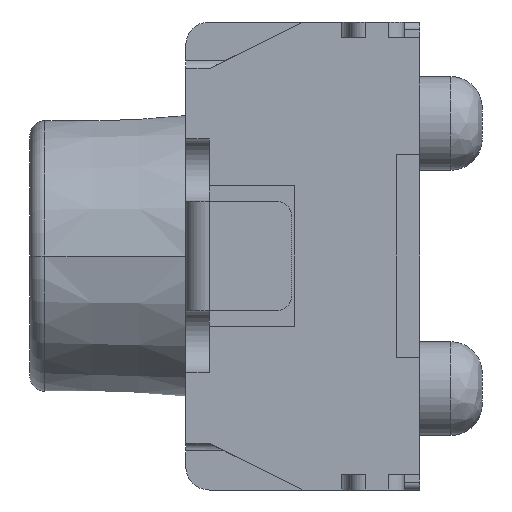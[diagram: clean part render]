
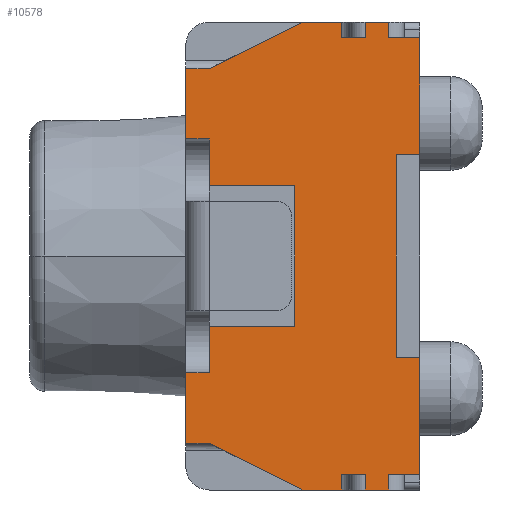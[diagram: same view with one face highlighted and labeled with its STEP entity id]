
A CAD part, left-side view. The second image highlights one B-rep face of the part: STEP entity #10578.
In plain terms, the highlighted planar face has unit normal (-1, 0, 0).
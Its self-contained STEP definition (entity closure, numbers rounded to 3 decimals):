
#51=DIRECTION('',(0.,0.,1.));
#52=VECTOR('',#51,0.75);
#53=CARTESIAN_POINT('',(-2.,0.,-1.4));
#54=LINE('',#53,#52);
#67=DIRECTION('',(0.,0.,1.));
#68=VECTOR('',#67,0.75);
#69=CARTESIAN_POINT('',(-2.,0.,0.65));
#70=LINE('',#69,#68);
#2001=DIRECTION('',(0.,0.,1.));
#2002=VECTOR('',#2001,1.3);
#2003=CARTESIAN_POINT('',(-2.,0.15,-0.65));
#2004=LINE('',#2003,#2002);
#2005=DIRECTION('',(0.,1.,0.));
#2006=VECTOR('',#2005,0.15);
#2007=CARTESIAN_POINT('',(-2.,0.,-0.65));
#2008=LINE('',#2007,#2006);
#2009=DIRECTION('',(0.,0.,-1.));
#2010=VECTOR('',#2009,0.1);
#2011=CARTESIAN_POINT('',(-2.,0.2,-1.4));
#2012=LINE('',#2011,#2010);
#2013=DIRECTION('',(0.,0.,-1.));
#2014=VECTOR('',#2013,0.1);
#2015=CARTESIAN_POINT('',(-2.,0.35,-1.4));
#2016=LINE('',#2015,#2014);
#2017=DIRECTION('',(0.,0.,1.));
#2018=VECTOR('',#2017,0.1);
#2019=CARTESIAN_POINT('',(-2.,0.5,-1.5));
#2020=LINE('',#2019,#2018);
#2021=DIRECTION('',(0.,1.,0.));
#2022=VECTOR('',#2021,0.25);
#2023=CARTESIAN_POINT('',(-2.,0.5,-1.5));
#2024=LINE('',#2023,#2022);
#2025=DIRECTION('',(0.,-0.894,-0.447));
#2026=VECTOR('',#2025,0.671);
#2027=CARTESIAN_POINT('',(-2.,1.35,-1.2));
#2028=LINE('',#2027,#2026);
#2029=DIRECTION('',(0.,-1.,0.));
#2030=VECTOR('',#2029,0.15);
#2031=CARTESIAN_POINT('',(-2.,1.5,-1.2));
#2032=LINE('',#2031,#2030);
#2033=DIRECTION('',(0.,-1.,0.));
#2034=VECTOR('',#2033,0.15);
#2035=CARTESIAN_POINT('',(-2.,1.5,-0.75));
#2036=LINE('',#2035,#2034);
#2037=DIRECTION('',(0.,0.,-1.));
#2038=VECTOR('',#2037,0.3);
#2039=CARTESIAN_POINT('',(-2.,1.35,-0.45));
#2040=LINE('',#2039,#2038);
#2041=DIRECTION('',(0.,-1.,0.));
#2042=VECTOR('',#2041,0.55);
#2043=CARTESIAN_POINT('',(-2.,1.35,-0.45));
#2044=LINE('',#2043,#2042);
#2045=DIRECTION('',(0.,0.,-1.));
#2046=VECTOR('',#2045,0.9);
#2047=CARTESIAN_POINT('',(-2.,0.8,0.45));
#2048=LINE('',#2047,#2046);
#2049=DIRECTION('',(0.,-1.,0.));
#2050=VECTOR('',#2049,0.55);
#2051=CARTESIAN_POINT('',(-2.,1.35,0.45));
#2052=LINE('',#2051,#2050);
#2053=DIRECTION('',(0.,0.,-1.));
#2054=VECTOR('',#2053,0.3);
#2055=CARTESIAN_POINT('',(-2.,1.35,0.75));
#2056=LINE('',#2055,#2054);
#2057=DIRECTION('',(0.,-1.,0.));
#2058=VECTOR('',#2057,0.15);
#2059=CARTESIAN_POINT('',(-2.,1.5,0.75));
#2060=LINE('',#2059,#2058);
#2061=DIRECTION('',(0.,-1.,0.));
#2062=VECTOR('',#2061,0.15);
#2063=CARTESIAN_POINT('',(-2.,1.5,1.2));
#2064=LINE('',#2063,#2062);
#2065=DIRECTION('',(0.,0.894,-0.447));
#2066=VECTOR('',#2065,0.671);
#2067=CARTESIAN_POINT('',(-2.,0.75,1.5));
#2068=LINE('',#2067,#2066);
#2069=DIRECTION('',(0.,0.,-1.));
#2070=VECTOR('',#2069,0.1);
#2071=CARTESIAN_POINT('',(-2.,0.5,1.5));
#2072=LINE('',#2071,#2070);
#2073=DIRECTION('',(0.,0.,-1.));
#2074=VECTOR('',#2073,0.1);
#2075=CARTESIAN_POINT('',(-2.,0.35,1.5));
#2076=LINE('',#2075,#2074);
#2077=DIRECTION('',(0.,0.,-1.));
#2078=VECTOR('',#2077,0.1);
#2079=CARTESIAN_POINT('',(-2.,0.2,1.5));
#2080=LINE('',#2079,#2078);
#2081=DIRECTION('',(0.,1.,0.));
#2082=VECTOR('',#2081,0.15);
#2083=CARTESIAN_POINT('',(-2.,0.,0.65));
#2084=LINE('',#2083,#2082);
#2125=DIRECTION('',(0.,-1.,0.));
#2126=VECTOR('',#2125,0.2);
#2127=CARTESIAN_POINT('',(-2.,0.2,-1.4));
#2128=LINE('',#2127,#2126);
#2153=DIRECTION('',(0.,-1.,0.));
#2154=VECTOR('',#2153,0.15);
#2155=CARTESIAN_POINT('',(-2.,0.5,-1.4));
#2156=LINE('',#2155,#2154);
#2221=DIRECTION('',(0.,-1.,0.));
#2222=VECTOR('',#2221,0.15);
#2223=CARTESIAN_POINT('',(-2.,0.35,-1.5));
#2224=LINE('',#2223,#2222);
#2322=DIRECTION('',(0.,0.,1.));
#2323=VECTOR('',#2322,0.45);
#2324=CARTESIAN_POINT('',(-2.,1.5,0.75));
#2325=LINE('',#2324,#2323);
#2348=DIRECTION('',(0.,0.,1.));
#2349=VECTOR('',#2348,0.45);
#2350=CARTESIAN_POINT('',(-2.,1.5,-1.2));
#2351=LINE('',#2350,#2349);
#2507=DIRECTION('',(0.,1.,0.));
#2508=VECTOR('',#2507,0.2);
#2509=CARTESIAN_POINT('',(-2.,0.,1.4));
#2510=LINE('',#2509,#2508);
#2544=DIRECTION('',(0.,1.,0.));
#2545=VECTOR('',#2544,0.15);
#2546=CARTESIAN_POINT('',(-2.,0.35,1.4));
#2547=LINE('',#2546,#2545);
#2659=DIRECTION('',(0.,-1.,0.));
#2660=VECTOR('',#2659,0.15);
#2661=CARTESIAN_POINT('',(-2.,0.35,1.5));
#2662=LINE('',#2661,#2660);
#2739=DIRECTION('',(0.,1.,0.));
#2740=VECTOR('',#2739,0.25);
#2741=CARTESIAN_POINT('',(-2.,0.5,1.5));
#2742=LINE('',#2741,#2740);
#7073=CARTESIAN_POINT('',(-2.,0.,1.4));
#7075=VERTEX_POINT('',#7073);
#7081=CARTESIAN_POINT('',(-2.,0.5,1.5));
#7082=CARTESIAN_POINT('',(-2.,0.5,1.4));
#7083=VERTEX_POINT('',#7081);
#7084=VERTEX_POINT('',#7082);
#7149=CARTESIAN_POINT('',(-2.,0.2,1.5));
#7150=CARTESIAN_POINT('',(-2.,0.2,1.4));
#7151=VERTEX_POINT('',#7149);
#7152=VERTEX_POINT('',#7150);
#7161=CARTESIAN_POINT('',(-2.,0.35,1.5));
#7162=VERTEX_POINT('',#7161);
#7163=CARTESIAN_POINT('',(-2.,0.35,1.4));
#7164=VERTEX_POINT('',#7163);
#7269=CARTESIAN_POINT('',(-2.,0.8,0.45));
#7270=VERTEX_POINT('',#7269);
#7271=CARTESIAN_POINT('',(-2.,0.8,-0.45));
#7272=VERTEX_POINT('',#7271);
#7285=CARTESIAN_POINT('',(-2.,1.35,0.75));
#7286=VERTEX_POINT('',#7285);
#7291=CARTESIAN_POINT('',(-2.,1.35,-0.75));
#7292=VERTEX_POINT('',#7291);
#7317=CARTESIAN_POINT('',(-2.,1.5,0.75));
#7318=VERTEX_POINT('',#7317);
#7319=CARTESIAN_POINT('',(-2.,1.5,-0.75));
#7320=VERTEX_POINT('',#7319);
#7321=CARTESIAN_POINT('',(-2.,1.35,0.45));
#7322=VERTEX_POINT('',#7321);
#7323=CARTESIAN_POINT('',(-2.,1.35,-0.45));
#7324=VERTEX_POINT('',#7323);
#7335=CARTESIAN_POINT('',(-2.,1.5,1.2));
#7336=VERTEX_POINT('',#7335);
#7341=CARTESIAN_POINT('',(-2.,0.75,1.5));
#7342=CARTESIAN_POINT('',(-2.,1.35,1.2));
#7343=VERTEX_POINT('',#7341);
#7344=VERTEX_POINT('',#7342);
#7374=CARTESIAN_POINT('',(-2.,0.5,-1.4));
#7376=VERTEX_POINT('',#7374);
#7389=CARTESIAN_POINT('',(-2.,0.2,-1.4));
#7391=VERTEX_POINT('',#7389);
#7394=CARTESIAN_POINT('',(-2.,0.35,-1.4));
#7396=VERTEX_POINT('',#7394);
#7409=CARTESIAN_POINT('',(-2.,0.,-1.4));
#7410=VERTEX_POINT('',#7409);
#7413=CARTESIAN_POINT('',(-2.,0.5,-1.5));
#7414=VERTEX_POINT('',#7413);
#7446=CARTESIAN_POINT('',(-2.,0.2,-1.5));
#7448=VERTEX_POINT('',#7446);
#7449=CARTESIAN_POINT('',(-2.,0.35,-1.5));
#7451=VERTEX_POINT('',#7449);
#7483=CARTESIAN_POINT('',(-2.,1.5,-1.2));
#7484=VERTEX_POINT('',#7483);
#7495=CARTESIAN_POINT('',(-2.,1.35,-1.2));
#7496=CARTESIAN_POINT('',(-2.,0.75,-1.5));
#7497=VERTEX_POINT('',#7495);
#7498=VERTEX_POINT('',#7496);
#7551=CARTESIAN_POINT('',(-2.,0.15,-0.65));
#7552=CARTESIAN_POINT('',(-2.,0.15,0.65));
#7553=VERTEX_POINT('',#7551);
#7554=VERTEX_POINT('',#7552);
#7555=CARTESIAN_POINT('',(-2.,0.,-0.65));
#7556=VERTEX_POINT('',#7555);
#7557=CARTESIAN_POINT('',(-2.,0.,0.65));
#7558=VERTEX_POINT('',#7557);
#10510=CARTESIAN_POINT('',(-2.,0.,-1.5));
#10511=DIRECTION('',(-1.,0.,0.));
#10512=DIRECTION('',(0.,0.,1.));
#10513=AXIS2_PLACEMENT_3D('',#10510,#10511,#10512);
#10514=PLANE('',#10513);
#10515=ORIENTED_EDGE('',*,*,#10484,.F.);
#10517=ORIENTED_EDGE('',*,*,#10516,.F.);
#10518=ORIENTED_EDGE('',*,*,#9404,.F.);
#10520=ORIENTED_EDGE('',*,*,#10519,.F.);
#10522=ORIENTED_EDGE('',*,*,#10521,.T.);
#10524=ORIENTED_EDGE('',*,*,#10523,.F.);
#10526=ORIENTED_EDGE('',*,*,#10525,.F.);
#10528=ORIENTED_EDGE('',*,*,#10527,.F.);
#10530=ORIENTED_EDGE('',*,*,#10529,.F.);
#10532=ORIENTED_EDGE('',*,*,#10531,.T.);
#10534=ORIENTED_EDGE('',*,*,#10533,.F.);
#10536=ORIENTED_EDGE('',*,*,#10535,.F.);
#10538=ORIENTED_EDGE('',*,*,#10537,.T.);
#10540=ORIENTED_EDGE('',*,*,#10539,.T.);
#10542=ORIENTED_EDGE('',*,*,#10541,.F.);
#10544=ORIENTED_EDGE('',*,*,#10543,.T.);
#10546=ORIENTED_EDGE('',*,*,#10545,.F.);
#10548=ORIENTED_EDGE('',*,*,#10547,.F.);
#10550=ORIENTED_EDGE('',*,*,#10549,.F.);
#10552=ORIENTED_EDGE('',*,*,#10551,.F.);
#10554=ORIENTED_EDGE('',*,*,#10553,.T.);
#10556=ORIENTED_EDGE('',*,*,#10555,.T.);
#10558=ORIENTED_EDGE('',*,*,#10557,.F.);
#10560=ORIENTED_EDGE('',*,*,#10559,.F.);
#10562=ORIENTED_EDGE('',*,*,#10561,.T.);
#10564=ORIENTED_EDGE('',*,*,#10563,.F.);
#10566=ORIENTED_EDGE('',*,*,#10565,.F.);
#10568=ORIENTED_EDGE('',*,*,#10567,.T.);
#10570=ORIENTED_EDGE('',*,*,#10569,.T.);
#10572=ORIENTED_EDGE('',*,*,#10571,.F.);
#10573=ORIENTED_EDGE('',*,*,#9412,.F.);
#10575=ORIENTED_EDGE('',*,*,#10574,.T.);
#10576=EDGE_LOOP('',(#10515,#10517,#10518,#10520,#10522,#10524,#10526,#10528,
#10530,#10532,#10534,#10536,#10538,#10540,#10542,#10544,#10546,#10548,#10550,
#10552,#10554,#10556,#10558,#10560,#10562,#10564,#10566,#10568,#10570,#10572,
#10573,#10575));
#10577=FACE_OUTER_BOUND('',#10576,.F.);
#9404=EDGE_CURVE('',#7410,#7556,#54,.T.);
#9412=EDGE_CURVE('',#7558,#7075,#70,.T.);
#10484=EDGE_CURVE('',#7553,#7554,#2004,.T.);
#10516=EDGE_CURVE('',#7556,#7553,#2008,.T.);
#10519=EDGE_CURVE('',#7391,#7410,#2128,.T.);
#10521=EDGE_CURVE('',#7391,#7448,#2012,.T.);
#10523=EDGE_CURVE('',#7451,#7448,#2224,.T.);
#10525=EDGE_CURVE('',#7396,#7451,#2016,.T.);
#10527=EDGE_CURVE('',#7376,#7396,#2156,.T.);
#10529=EDGE_CURVE('',#7414,#7376,#2020,.T.);
#10531=EDGE_CURVE('',#7414,#7498,#2024,.T.);
#10533=EDGE_CURVE('',#7497,#7498,#2028,.T.);
#10535=EDGE_CURVE('',#7484,#7497,#2032,.T.);
#10537=EDGE_CURVE('',#7484,#7320,#2351,.T.);
#10539=EDGE_CURVE('',#7320,#7292,#2036,.T.);
#10541=EDGE_CURVE('',#7324,#7292,#2040,.T.);
#10543=EDGE_CURVE('',#7324,#7272,#2044,.T.);
#10545=EDGE_CURVE('',#7270,#7272,#2048,.T.);
#10547=EDGE_CURVE('',#7322,#7270,#2052,.T.);
#10549=EDGE_CURVE('',#7286,#7322,#2056,.T.);
#10551=EDGE_CURVE('',#7318,#7286,#2060,.T.);
#10553=EDGE_CURVE('',#7318,#7336,#2325,.T.);
#10555=EDGE_CURVE('',#7336,#7344,#2064,.T.);
#10557=EDGE_CURVE('',#7343,#7344,#2068,.T.);
#10559=EDGE_CURVE('',#7083,#7343,#2742,.T.);
#10561=EDGE_CURVE('',#7083,#7084,#2072,.T.);
#10563=EDGE_CURVE('',#7164,#7084,#2547,.T.);
#10565=EDGE_CURVE('',#7162,#7164,#2076,.T.);
#10567=EDGE_CURVE('',#7162,#7151,#2662,.T.);
#10569=EDGE_CURVE('',#7151,#7152,#2080,.T.);
#10571=EDGE_CURVE('',#7075,#7152,#2510,.T.);
#10574=EDGE_CURVE('',#7558,#7554,#2084,.T.);
#10578=ADVANCED_FACE('',(#10577),#10514,.T.);
